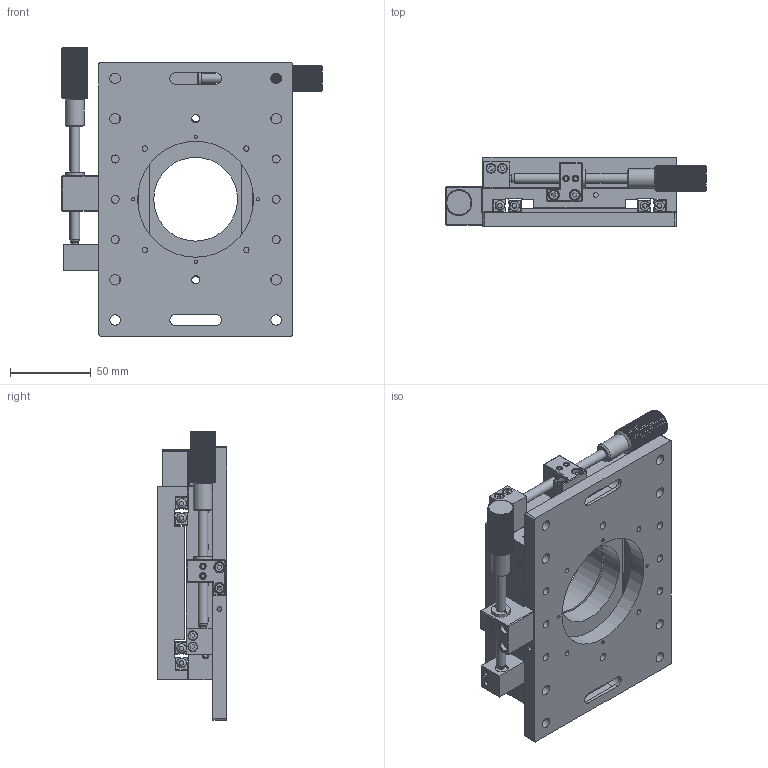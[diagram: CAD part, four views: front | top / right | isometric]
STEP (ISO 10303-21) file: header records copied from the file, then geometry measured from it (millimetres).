
FILE_DESCRIPTION (( 'STEP AP203' ), '1' );
FILE_NAME ('TSS120HXY-2A.step', '2017-01-10T09:20:33', ( '¦K¬P' ), ( '' ), 'SwSTEP 2.0', 'SolidWorks 2012', '' );
FILE_SCHEMA (( 'CONFIG_CONTROL_DESIGN' ));
Length unit declared in the file: millimetre
Products named in the file (1): TSS120HXY-2A
Bounding box: 161.5 x 43 x 179 mm (x, y, z)
Surface area: 156587 mm2 (no closed solid volume)
Topology: 0 solids, 69 shells, 935 faces, 2802 edges, 1915 vertices
Faces by surface type: plane 576, cylinder 292, cone 39, torus 15, sphere 13
Full cylindrical faces by diameter (mm): 1.7 x4, 2 x8, 2.5 x5, 3 x23, 3.3 x17, 4 x11, 5 x40, 6 x10, 6.5 x8, 8 x2, 10 x2, 11 x8, 11.5 x2, 12 x2, 52 x2, 72 x1
Entity records: 32064 total; most frequent: CARTESIAN_POINT 7997, DIRECTION 4624, ORIENTED_EDGE 4597, EDGE_CURVE 2555, VERTEX_POINT 1882, AXIS2_PLACEMENT_3D 1671, EDGE_LOOP 1446, VECTOR 1282
